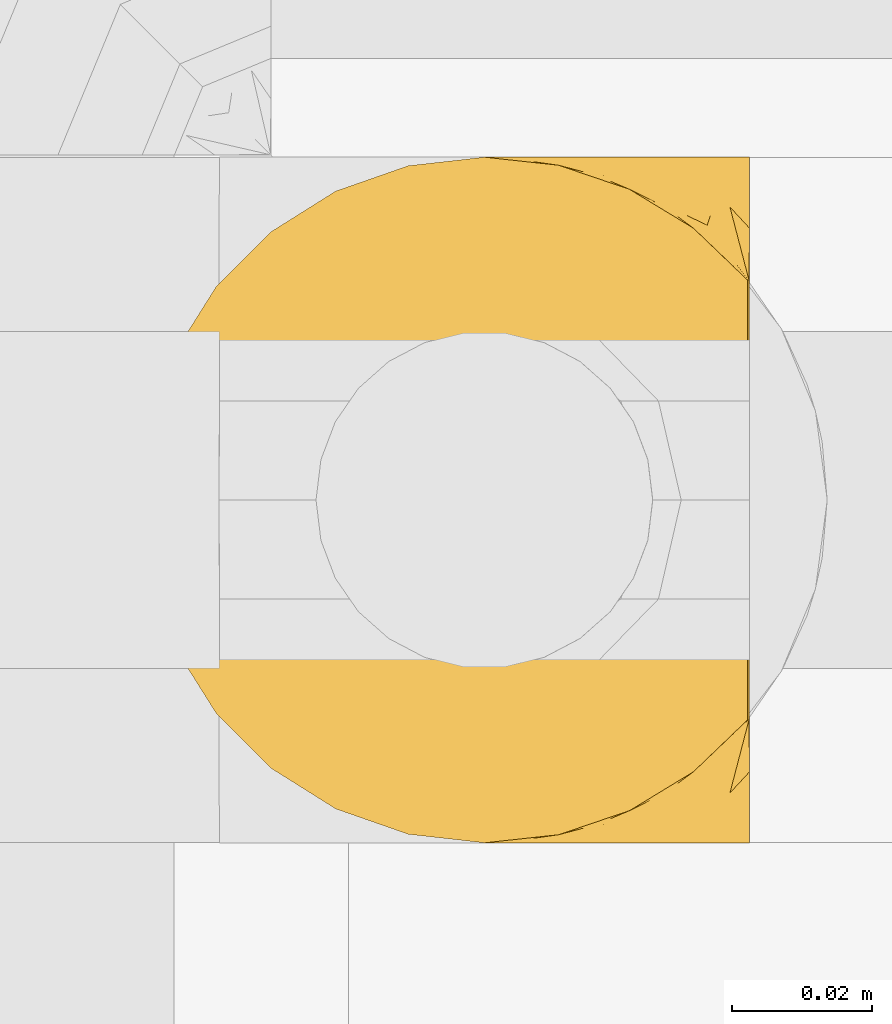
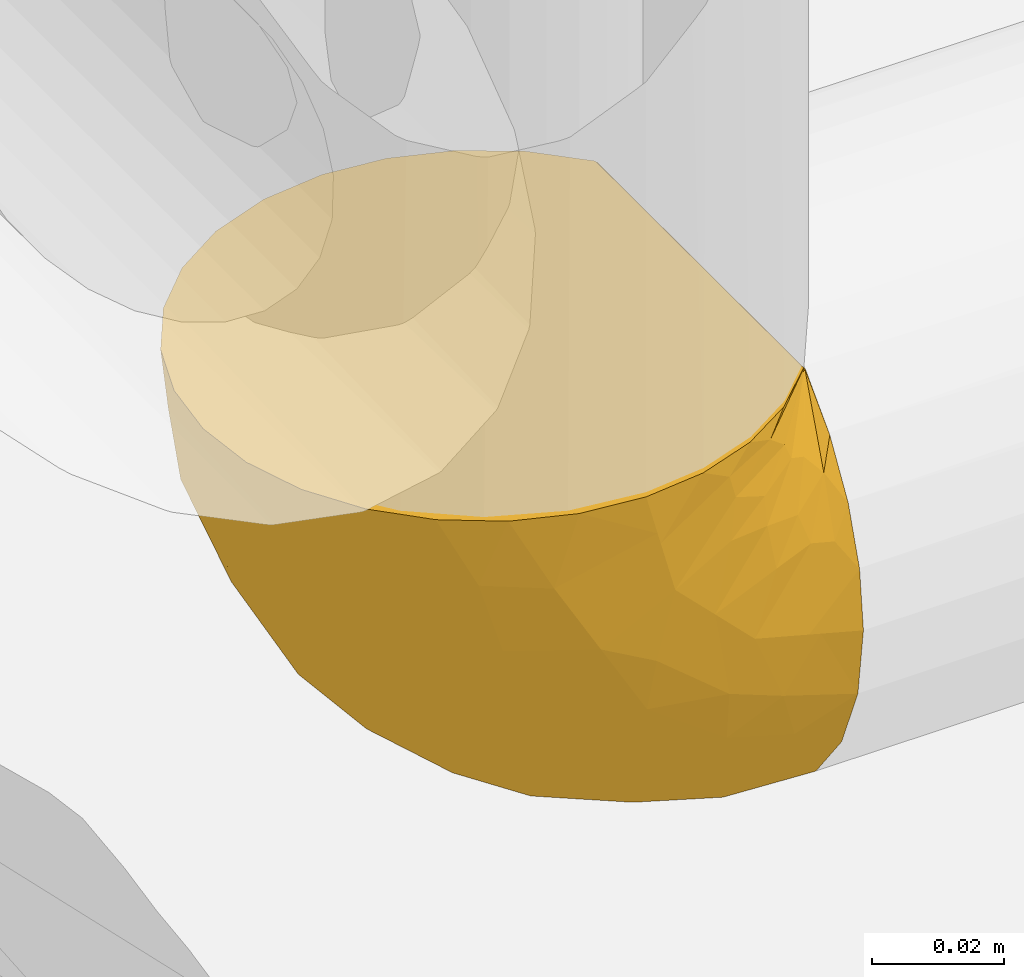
# One storey, part 30 of 94: 1 covering.
"""IFC2X3 building model written with IfcOpenShell, lengths in millimetres."""

from ifc_helpers import new_model, entity, si_unit, converted_unit, derived_unit, direction, frame, origin, place, context, subcontext, project, spatial, faceted_brep, material, element, save


model = new_model("IFC2X3")

# Units and contexts
model_context = context("Model", 3, precision=0.01, world=origin(), true_north=direction((6.123031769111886e-17, 1.0)))
body_context = subcontext(model_context, "Body", "Model", "MODEL_VIEW")
ifc_project = project(units=[si_unit("LENGTHUNIT", "METRE", prefix="MILLI"), si_unit("AREAUNIT", "SQUARE_METRE"), si_unit("VOLUMEUNIT", "CUBIC_METRE"), converted_unit("PLANEANGLEUNIT", "DEGREE", entity("IfcRatioMeasure", 0.017453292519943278), si_unit("PLANEANGLEUNIT", "RADIAN"), dimensions=[0, 0, 0, 0, 0, 0, 0]), si_unit("MASSUNIT", "GRAM", prefix="KILO"), derived_unit("MASSDENSITYUNIT", [(si_unit("MASSUNIT", "GRAM", prefix="KILO"), 1), (si_unit("LENGTHUNIT", "METRE"), -3)]), derived_unit("IONCONCENTRATIONUNIT", [(si_unit("MASSUNIT", "GRAM", prefix="KILO"), 1), (si_unit("LENGTHUNIT", "METRE"), -3)]), derived_unit("MOMENTOFINERTIAUNIT", [(si_unit("LENGTHUNIT", "METRE"), 4)]), si_unit("TIMEUNIT", "SECOND"), si_unit("FREQUENCYUNIT", "HERTZ"), si_unit("THERMODYNAMICTEMPERATUREUNIT", "DEGREE_CELSIUS"), derived_unit("THERMALTRANSMITTANCEUNIT", [(si_unit("MASSUNIT", "GRAM", prefix="KILO"), 1), (si_unit("THERMODYNAMICTEMPERATUREUNIT", "KELVIN"), -1), (si_unit("TIMEUNIT", "SECOND"), -3)]), derived_unit("THERMALCONDUCTANCEUNIT", [(si_unit("MASSUNIT", "GRAM", prefix="KILO"), 1), (si_unit("THERMODYNAMICTEMPERATUREUNIT", "KELVIN"), -1), (si_unit("TIMEUNIT", "SECOND"), -3), (si_unit("LENGTHUNIT", "METRE"), 1)]), derived_unit("VOLUMETRICFLOWRATEUNIT", [(si_unit("LENGTHUNIT", "METRE"), 3), (si_unit("TIMEUNIT", "SECOND"), -1)]), derived_unit("MASSFLOWRATEUNIT", [(si_unit("MASSUNIT", "GRAM", prefix="KILO"), 1), (si_unit("TIMEUNIT", "SECOND"), -1)]), derived_unit("ROTATIONALFREQUENCYUNIT", [(si_unit("TIMEUNIT", "SECOND"), -1)]), si_unit("ELECTRICCURRENTUNIT", "AMPERE"), si_unit("ELECTRICVOLTAGEUNIT", "VOLT"), si_unit("POWERUNIT", "WATT"), si_unit("FORCEUNIT", "NEWTON", prefix="KILO"), si_unit("ILLUMINANCEUNIT", "LUX"), si_unit("LUMINOUSFLUXUNIT", "LUMEN"), si_unit("LUMINOUSINTENSITYUNIT", "CANDELA"), derived_unit("USERDEFINED", [(si_unit("MASSUNIT", "GRAM", prefix="KILO"), -1), (si_unit("LENGTHUNIT", "METRE"), -2), (si_unit("TIMEUNIT", "SECOND"), 3), (si_unit("LUMINOUSFLUXUNIT", "LUMEN"), 1)]), derived_unit("USERDEFINED", [(si_unit("MASSUNIT", "GRAM", prefix="KILO"), 1), (si_unit("TIMEUNIT", "SECOND"), -3), (si_unit("LENGTHUNIT", "METRE"), 3), (si_unit("ELECTRICCURRENTUNIT", "AMPERE"), -2)]), derived_unit("SOUNDPOWERUNIT", [(si_unit("MASSUNIT", "GRAM", prefix="KILO"), 1), (si_unit("TIMEUNIT", "SECOND"), -3), (si_unit("LENGTHUNIT", "METRE"), 2)]), derived_unit("SOUNDPRESSUREUNIT", [(si_unit("MASSUNIT", "GRAM", prefix="KILO"), 1), (si_unit("LENGTHUNIT", "METRE"), -1), (si_unit("TIMEUNIT", "SECOND"), -2)]), derived_unit("LINEARVELOCITYUNIT", [(si_unit("LENGTHUNIT", "METRE"), 1), (si_unit("TIMEUNIT", "SECOND"), -1)]), si_unit("PRESSUREUNIT", "PASCAL"), derived_unit("USERDEFINED", [(si_unit("MASSUNIT", "GRAM", prefix="KILO"), 1), (si_unit("LENGTHUNIT", "METRE"), -2), (si_unit("TIMEUNIT", "SECOND"), -2)]), derived_unit("LINEARFORCEUNIT", [(si_unit("MASSUNIT", "GRAM", prefix="KILO"), 1), (si_unit("TIMEUNIT", "SECOND"), -2)]), derived_unit("PLANARFORCEUNIT", [(si_unit("MASSUNIT", "GRAM", prefix="KILO"), 1), (si_unit("LENGTHUNIT", "METRE"), -1), (si_unit("TIMEUNIT", "SECOND"), -2)]), derived_unit("SPECIFICHEATCAPACITYUNIT", [(si_unit("THERMODYNAMICTEMPERATUREUNIT", "KELVIN"), -1), (si_unit("LENGTHUNIT", "METRE"), 2), (si_unit("TIMEUNIT", "SECOND"), -2)]), derived_unit("HEATINGVALUEUNIT", [(si_unit("LENGTHUNIT", "METRE"), 2), (si_unit("TIMEUNIT", "SECOND"), -2)]), derived_unit("VAPORPERMEABILITYUNIT", [(si_unit("LENGTHUNIT", "METRE"), -1), (si_unit("TIMEUNIT", "SECOND"), 1)]), derived_unit("DYNAMICVISCOSITYUNIT", [(si_unit("MASSUNIT", "GRAM", prefix="KILO"), 1), (si_unit("TIMEUNIT", "SECOND"), -1), (si_unit("LENGTHUNIT", "METRE"), -1)]), derived_unit("THERMALEXPANSIONCOEFFICIENTUNIT", [(si_unit("THERMODYNAMICTEMPERATUREUNIT", "KELVIN"), -1)]), derived_unit("MODULUSOFELASTICITYUNIT", [(si_unit("MASSUNIT", "GRAM", prefix="KILO"), 1), (si_unit("LENGTHUNIT", "METRE"), -1), (si_unit("TIMEUNIT", "SECOND"), -2)]), derived_unit("ISOTHERMALMOISTURECAPACITYUNIT", [(si_unit("LENGTHUNIT", "METRE"), 3), (si_unit("MASSUNIT", "GRAM", prefix="KILO"), -1)]), derived_unit("MOISTUREDIFFUSIVITYUNIT", [(si_unit("TIMEUNIT", "SECOND"), -1), (si_unit("LENGTHUNIT", "METRE"), 2)])], contexts=[model_context])

# Site, building, storey
site_placement = place(None, origin())
site = spatial("IfcSite", under=ifc_project, at=site_placement, Name="Default", CompositionType="ELEMENT")
building_placement = place(site_placement, origin())
building = spatial("IfcBuilding", under=site, at=building_placement, CompositionType="ELEMENT")
storey_placement = place(building_placement, origin())
storey = spatial("IfcBuildingStorey", under=building, at=storey_placement, Name="Niveau 0", CompositionType="ELEMENT", Elevation=0.0)

# Covering
ifc_material = material(Name="Isolation - Laine minérale")
covering_placement = place(storey_placement, frame((-6908.882524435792, 9224.73240677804, 538.5952722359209)))
element("IfcCovering", 1, at=covering_placement, inside=storey, material=ifc_material, Name="Isolation des canalisations:Laine minérale", ObjectType="Isolation des canalisations:Laine minérale", PredefinedType="INSULATION", context=body_context, shape_type="Brep", body=[
    faceted_brep([(88.43165280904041, 19.19437336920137, -1.5952722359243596), (88.43165280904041, 21.63864226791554, -1.5952722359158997), (88.43165280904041, 23.415694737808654, -1.5952722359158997), (88.43165280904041, 25.192747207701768, -1.5952722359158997), (88.43165280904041, 26.692340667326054, -1.5952722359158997), (88.43165280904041, 28.191934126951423, -1.5952722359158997), (88.43165280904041, 31.191121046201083, -1.5952722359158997), (88.43165280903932, 34.19030796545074, -1.5952722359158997), (88.43165280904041, 37.18949488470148, -1.5952722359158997), (88.43165280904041, 40.18868180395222, -1.5952722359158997), (88.43165280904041, 41.688275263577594, -1.5952722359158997), (88.43165280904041, 43.18786872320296, -1.5952722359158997), (88.43165280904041, 45.63213762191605, -1.5952722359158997), (88.43165280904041, 48.07640652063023, -1.5952722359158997), (88.43165280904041, 50.5206754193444, -1.5952722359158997), (88.43165280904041, 52.96494431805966, -1.5952722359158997), (88.43165280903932, 55.40921321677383, -1.5952722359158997), (88.43165280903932, 57.853482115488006, -1.5952722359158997), (88.43165280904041, 60.29775101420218, -1.595272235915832), (88.43165280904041, 62.742019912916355, -1.5952722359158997), (88.43165280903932, 65.18628881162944, -1.5952722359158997), (88.43165280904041, 67.6305577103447, -1.5952722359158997), (88.43165280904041, 70.07482660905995, -1.5952722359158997), (88.43165280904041, 72.51909550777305, -1.5952722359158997), (88.43165280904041, 74.96336440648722, -1.5952722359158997), (88.43165280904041, 77.4076333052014, -1.5952722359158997), (88.43165280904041, 79.85190220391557, -1.5952722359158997), (88.43165280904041, 82.29617110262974, -1.5952722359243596), (80.69235262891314, 89.71827412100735, -1.5952722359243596), (71.53113811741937, 95.28368576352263, -1.5952722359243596), (61.38390047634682, 98.73008326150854, -1.5952722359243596), (50.74527223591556, 99.89527223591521, -1.5952722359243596), (39.80290363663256, 98.66173151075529, -1.5952722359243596), (29.41213456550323, 95.02415814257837, -1.5952722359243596), (20.093252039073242, 89.16631019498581, -1.5952722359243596), (12.31254833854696, 81.38263886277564, -1.5952722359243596), (6.459227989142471, 72.06354573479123, -1.5952722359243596), (2.826140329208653, 61.67593083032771, -1.5952722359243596), (1.5952722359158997, 50.74527223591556, -1.5952722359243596), (2.828812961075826, 39.80290363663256, -1.5952722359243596), (6.466386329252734, 29.41213456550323, -1.5952722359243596), (12.324234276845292, 20.093252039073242, -1.5952722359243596), (20.107905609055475, 12.31254833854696, -1.5952722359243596), (29.426998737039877, 6.459227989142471, -1.5952722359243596), (39.814613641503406, 2.826140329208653, -1.5952722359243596), (50.74527223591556, 1.5952722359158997, -1.5952722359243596), (61.40435822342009, 2.765001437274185, -1.5952722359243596), (71.55257335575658, 6.216868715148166, -1.5952722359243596), (80.70896636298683, 11.785042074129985, -1.5952722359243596), (88.74527223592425, 19.19437336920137, -1.9088916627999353), (88.74527223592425, 11.777056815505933, -9.641963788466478), (88.74527223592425, 6.211862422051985, -18.798688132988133), (88.74527223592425, 2.7632985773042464, -28.943854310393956), (88.74527223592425, 1.5952722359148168, -39.59527223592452), (88.74527223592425, 3.270017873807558, -52.31622830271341), (88.74527223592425, 8.18012363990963, -64.17027223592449), (88.74527223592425, 15.990973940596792, -74.34957053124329), (88.74527223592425, 26.17027223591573, -82.16042083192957), (88.74527223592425, 38.02431616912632, -87.07052659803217), (88.74527223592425, 50.74527223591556, -88.74527223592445), (88.74527223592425, 63.466228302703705, -87.07052659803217), (88.74527223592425, 75.32027223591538, -82.16042083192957), (88.74527223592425, 85.49957053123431, -74.34957053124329), (88.74527223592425, 93.3104208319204, -64.17027223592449), (88.74527223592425, 98.22052659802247, -52.31622830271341), (88.74527223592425, 99.89527223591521, -39.59527223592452), (88.74527223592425, 98.72724589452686, -28.943854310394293), (88.74527223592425, 95.27868204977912, -18.798688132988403), (88.74527223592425, 89.71348765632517, -9.64196378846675), (88.74527223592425, 82.29617110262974, -1.9088916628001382), (88.74527223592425, 79.85190220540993, -1.908891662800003), (88.74527223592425, 78.3523087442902, -1.908891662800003), (88.74527223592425, 76.3803775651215, -1.908891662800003), (88.74527223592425, 74.40844638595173, -1.908891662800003), (88.74527223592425, 72.43651520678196, -1.908891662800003), (88.74527223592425, 70.46458402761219, -1.908891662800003), (88.74527223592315, 68.49265284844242, -1.908891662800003), (88.74527223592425, 66.52072166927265, -1.908891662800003), (88.74527223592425, 64.54879049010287, -1.908891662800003), (88.74527223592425, 62.5768593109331, -1.908891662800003), (88.74527223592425, 60.60492813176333, -1.908891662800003), (88.74527223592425, 58.632996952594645, -1.908891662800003), (88.74527223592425, 56.661065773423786, -1.908891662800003), (88.74527223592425, 54.6891345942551, -1.908891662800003), (88.74527223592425, 52.71720341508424, -1.908891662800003), (88.74527223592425, 50.74527223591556, -1.908891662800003), (88.74527223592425, 48.773341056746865, -1.908891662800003), (88.74527223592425, 46.80140987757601, -1.908891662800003), (88.74527223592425, 44.82947869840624, -1.908891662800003), (88.74527223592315, 42.85754751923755, -1.908891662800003), (88.74527223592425, 40.88561634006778, -1.908891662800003), (88.74527223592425, 38.913685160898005, -1.908891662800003), (88.74527223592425, 36.94175398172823, -1.908891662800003), (88.74527223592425, 34.96982280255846, -1.908891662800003), (88.74527223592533, 31.97063588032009, -1.908891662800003), (88.74527223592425, 28.97144895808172, -1.908891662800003), (88.74527223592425, 26.5271800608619, -1.908891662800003), (88.74527223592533, 24.082911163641, -1.9088916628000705), (88.74527223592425, 21.638642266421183, -1.908891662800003), (88.53090125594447, 53.75333970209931, -1.82418756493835), (88.52210831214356, 51.832765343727, -1.8156242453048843), (88.521221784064, 61.47290163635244, -1.8147227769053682), (88.5277799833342, 63.56282540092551, -1.821224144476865), (88.54092532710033, 48.00102702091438, -1.8331787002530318), (88.53506454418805, 77.24999397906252, -1.8280164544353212), (88.49130573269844, 80.69913834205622, -1.7792781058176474), (88.51810292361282, 42.43807145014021, -1.811492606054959), (88.52350981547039, 22.860776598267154, -1.8170346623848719), (88.52548149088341, 24.70021643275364, -1.8189889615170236), (88.51653277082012, 71.3700895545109, -1.8098308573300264), (88.52674320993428, 73.40383885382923, -1.8202215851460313), (88.5046900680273, 44.410002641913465, -1.7964621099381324), (88.52964682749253, 37.92771907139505, -1.8230063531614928), (88.53317608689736, 39.81308540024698, -1.8262968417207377), (88.51585328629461, 35.95578792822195, -1.8091041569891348), (88.52914218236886, 49.75930651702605, -1.8225274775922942), (88.52591800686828, 21.02757498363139, -1.8194169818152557), (88.5366490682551, 55.67510065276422, -1.8294378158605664), (88.5374788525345, 67.50668767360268, -1.8301744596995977), (88.53273195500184, 65.61454699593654, -1.8258883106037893), (88.53426299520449, 34.10458092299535, -1.827290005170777), (88.53370000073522, 57.55217518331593, -1.8267767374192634), (88.52350981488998, 79.10210557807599, -1.8170346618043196), (88.53493173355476, 75.39441218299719, -1.8278964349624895), (88.5235098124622, 82.29617110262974, -1.817034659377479), (88.49487979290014, 82.29617110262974, -1.7479156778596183), (88.46624977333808, 82.29617110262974, -1.6787966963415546), (88.5235098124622, 19.19437336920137, -1.817034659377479), (88.59262879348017, 19.19437336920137, -1.8456646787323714), (88.66174777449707, 19.19437336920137, -1.874294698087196), (88.51000647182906, 32.212157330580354, -1.8026539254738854), (88.5304248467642, 69.43559223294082, -1.8237404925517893), (88.52246762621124, 46.24828797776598, -1.815987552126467), (88.52470424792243, 59.49061335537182, -1.818222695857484), (88.50579329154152, 29.41925201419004, -1.797774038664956), (88.52744143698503, 27.44213716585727, -1.820897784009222), (88.66174777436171, 82.29617110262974, -1.87429469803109), (88.59262879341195, 82.29617110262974, -1.8456646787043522), (88.46624977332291, 19.19437336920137, -1.6787966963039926), (88.49487979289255, 19.19437336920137, -1.7479156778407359), (85.22080157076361, 4.210283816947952, -23.495219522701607), (85.93611072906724, 8.744179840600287, -13.747756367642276), (81.07807843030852, 4.210283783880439, -22.409779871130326), (83.13289242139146, 9.955583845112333, -10.562522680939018), (79.24527223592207, 1.5952722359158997, -37.049754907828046), (81.28890223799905, 1.5952722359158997, -37.59734391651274), (55.83630689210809, 1.5952722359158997, -20.59527223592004), (66.39553001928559, 2.93549782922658, -16.020149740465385), (67.94040403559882, 4.213452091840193, -9.261677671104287), (69.7452722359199, 1.5952722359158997, -34.50423757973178), (80.67378389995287, 9.405305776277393, -9.667897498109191), (79.7889209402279, 9.963487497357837, -7.202912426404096), (74.32109358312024, 2.9356418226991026, -23.9447467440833), (66.85470593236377, 4.213452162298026, -5.119390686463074), (76.60336361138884, 8.750654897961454, -4.402893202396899), (79.6491193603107, 5.690627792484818, -17.54150634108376), (52.74320051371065, 1.5952722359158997, -9.051642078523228), (53.290789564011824, 1.5952722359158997, -11.095272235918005), (73.61168493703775, 4.482619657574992, -16.728859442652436), (62.790789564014, 1.5952722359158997, -27.549754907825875), (73.87988529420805, 5.766057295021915, -12.071559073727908), (75.32913676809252, 2.6117250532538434, -47.62395095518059), (65.91074185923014, 2.657531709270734, -44.001441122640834), (53.84761415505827, 11.131578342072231, -58.899698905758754), (59.13651173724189, 20.82464790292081, -72.66771487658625), (71.16612245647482, 11.7519547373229, -67.20155656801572), (67.00545271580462, 5.336592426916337, -54.0798422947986), (78.88051287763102, 5.336592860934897, -57.54110754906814), (37.51978749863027, 50.74527223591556, -72.10110329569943), (61.81444117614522, 50.74527223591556, -84.4798476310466), (53.87520138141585, 40.339739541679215, -80.2480135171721), (25.78494399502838, 9.124243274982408, -13.851436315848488), (36.244182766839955, 4.351045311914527, -15.165285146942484), (29.562882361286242, 32.64695426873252, -60.77765845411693), (30.770681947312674, 23.768909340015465, -55.385836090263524), (15.292222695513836, 35.61531809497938, -43.89737524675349), (71.31385843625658, 41.696133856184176, -86.12648113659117), (47.24102741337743, 30.50981773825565, -73.23168363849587), (43.50389303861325, 21.748430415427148, -64.74738573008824), (75.28985257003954, 20.824647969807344, -77.40373146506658), (67.10273039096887, 31.93638275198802, -82.14716981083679), (37.099200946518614, 15.984346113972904, -52.82911549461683), (44.515176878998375, 9.509703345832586, -48.87896541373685), (33.70477633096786, 11.405769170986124, -40.60722086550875), (44.051694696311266, 3.7235321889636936, -28.769953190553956), (30.044081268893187, 9.124242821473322, -27.44844566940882), (18.312338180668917, 15.984347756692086, -19.800365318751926), (5.860696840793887, 50.74527223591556, -28.52610329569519), (7.041406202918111, 34.50535109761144, -22.71562192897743), (25.61446965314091, 18.535934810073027, -42.317485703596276), (15.886915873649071, 24.588194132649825, -33.683827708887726), (10.600409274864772, 24.588193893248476, -16.8069734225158), (38.50378416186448, 39.07585882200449, -71.0785805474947), (25.345180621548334, 42.346184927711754, -60.332491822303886), (53.16350413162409, 2.5632520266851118, -33.373321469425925), (18.239441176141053, 50.74527223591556, -52.82075697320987), (52.69469876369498, 4.722449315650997, -43.465429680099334), (58.175892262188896, 69.5541610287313, -79.20017463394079), (71.70091272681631, 59.5851078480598, -86.24488809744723), (54.574333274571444, 59.865425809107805, -80.8380701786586), (42.49805076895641, 66.13789702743, -72.52816019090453), (75.0623548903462, 69.55416221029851, -83.87397883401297), (24.525141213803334, 85.49332197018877, -35.79866076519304), (25.786342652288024, 78.98858976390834, -48.02046276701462), (15.878231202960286, 76.88743080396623, -33.68736739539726), (37.089792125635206, 85.49294527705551, -52.838449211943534), (35.71336208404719, 78.28666517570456, -59.75598123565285), (36.23150879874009, 97.13479117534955, -15.170016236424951), (70.53804152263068, 98.95303587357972, -45.55141709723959), (69.7452722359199, 99.89527223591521, -34.50423757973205), (79.24527223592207, 99.89527223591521, -37.049754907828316), (7.036299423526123, 66.97173870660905, -22.714677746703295), (69.24086116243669, 80.66589652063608, -76.07714087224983), (30.030512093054, 92.35692696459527, -27.454651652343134), (25.770245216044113, 92.35692651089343, -13.854008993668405), (76.87540408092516, 89.73858944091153, -68.47065883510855), (74.00473445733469, 96.15395178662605, -56.45843349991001), (48.41047025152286, 79.62483877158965, -68.08854506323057), (62.62553049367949, 89.7385902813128, -64.2927207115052), (31.220776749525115, 59.508159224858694, -66.01125638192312), (29.56034539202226, 68.8345286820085, -60.7801954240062), (79.82666983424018, 99.01263503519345, -48.01911236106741), (10.591274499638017, 76.887431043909, -16.809109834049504), (15.287247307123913, 65.85652255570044, -43.900853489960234), (18.299506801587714, 85.49294363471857, -19.803681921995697), (44.049870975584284, 97.76388503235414, -28.786726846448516), (55.83630689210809, 99.89527223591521, -20.595272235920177), (54.23536248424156, 98.78930951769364, -35.48506655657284), (62.790789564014, 99.89527223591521, -27.549754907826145), (52.74320051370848, 99.89527223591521, -9.0516420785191), (53.290789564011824, 99.89527223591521, -11.095272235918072), (48.41211537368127, 91.50386042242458, -53.162912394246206), (64.14304703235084, 96.42683125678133, -52.053084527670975), (40.10640265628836, 93.1499194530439, -41.40103739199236), (62.890734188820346, 99.08337182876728, -40.721221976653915), (47.67277833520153, 86.09107557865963, -60.91677547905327), (55.38955823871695, 96.67816905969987, -45.94061161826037), (81.0780784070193, 97.28026029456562, -22.40977862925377), (78.26566497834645, 95.72662397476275, -16.46425424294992), (74.32072912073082, 98.5546584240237, -23.94329253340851), (85.22080145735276, 97.28026045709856, -23.495218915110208), (85.93611080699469, 92.74636428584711, -13.747755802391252), (83.13257230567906, 91.53641117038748, -10.564867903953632), (82.68198005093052, 90.1127562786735, -7.656624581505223), (73.61706381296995, 97.0051951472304, -16.723481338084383), (79.75777141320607, 91.54965419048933, -7.216517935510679), (67.91845358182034, 97.2842704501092, -9.263185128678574), (66.83334757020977, 97.28427059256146, -5.119593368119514), (76.58449008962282, 92.7514749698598, -4.405878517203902), (66.3977076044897, 98.55441347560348, -16.01862728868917), (72.78382599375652, 95.80583125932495, -10.692146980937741)], [[[0, 1, 2, 3, 4, 5, 6, 7, 8, 9, 10, 11, 12, 13, 14, 15, 16, 17, 18, 19, 20, 21, 22, 23, 24, 25, 26, 27, 28, 29, 30, 31, 32, 33, 34, 35, 36, 37, 38, 39, 40, 41, 42, 43, 44, 45, 46, 47, 48]], [[49, 50, 51, 52, 53, 54, 55, 56, 57, 58, 59, 60, 61, 62, 63, 64, 65, 66, 67, 68, 69, 70, 71, 72, 73, 74, 75, 76, 77, 78, 79, 80, 81, 82, 83, 84, 85, 86, 87, 88, 89, 90, 91, 92, 93, 94, 95, 96, 97, 98]], [[99, 100, 84]], [[101, 102, 19]], [[86, 103, 87]], [[72, 71, 104]], [[105, 70, 69]], [[11, 10, 106]], [[2, 107, 108]], [[109, 74, 110]], [[12, 11, 111]], [[9, 112, 113]], [[108, 97, 96]], [[114, 93, 92]], [[103, 86, 115]], [[97, 107, 98]], [[107, 1, 116]], [[79, 102, 101]], [[99, 117, 16]], [[77, 118, 119]], [[120, 93, 114]], [[112, 91, 113]], [[89, 111, 106]], [[24, 23, 110]], [[107, 97, 108]], [[16, 117, 121]], [[92, 91, 112]], [[21, 119, 118]], [[85, 115, 86]], [[70, 105, 122]], [[72, 123, 73]], [[105, 124, 125, 126, 27]], [[116, 1, 0]], [[122, 71, 70]], [[25, 122, 26]], [[116, 127, 128, 129, 49]], [[110, 123, 24]], [[26, 122, 105]], [[120, 7, 130]], [[8, 114, 112]], [[114, 8, 7]], [[104, 123, 72]], [[92, 112, 114]], [[104, 122, 25]], [[8, 112, 9]], [[110, 73, 123]], [[20, 119, 21]], [[24, 123, 25]], [[75, 74, 109]], [[131, 76, 75]], [[118, 131, 21]], [[109, 110, 23]], [[109, 23, 22]], [[74, 73, 110]], [[123, 104, 25]], [[122, 104, 71]], [[10, 9, 113]], [[113, 90, 106]], [[88, 87, 132]], [[113, 106, 10]], [[77, 76, 118]], [[132, 111, 88]], [[106, 111, 11]], [[132, 12, 111]], [[88, 111, 89]], [[89, 106, 90]], [[113, 91, 90]], [[131, 118, 76]], [[22, 21, 131]], [[119, 20, 102]], [[131, 109, 22]], [[109, 131, 75]], [[79, 78, 102]], [[78, 119, 102]], [[78, 77, 119]], [[121, 81, 133]], [[20, 19, 102]], [[17, 121, 133]], [[80, 79, 101]], [[18, 101, 19]], [[132, 13, 12]], [[81, 80, 133]], [[13, 103, 115]], [[14, 13, 115]], [[87, 103, 132]], [[100, 115, 85]], [[15, 14, 100]], [[115, 100, 14]], [[16, 15, 99]], [[117, 82, 121]], [[100, 85, 84]], [[99, 83, 117]], [[82, 117, 83]], [[17, 16, 121]], [[83, 99, 84]], [[100, 99, 15]], [[18, 17, 133]], [[121, 82, 81]], [[133, 101, 18]], [[101, 133, 80]], [[134, 95, 94]], [[7, 120, 114]], [[132, 103, 13]], [[120, 94, 93]], [[94, 120, 130]], [[98, 107, 116]], [[108, 4, 3, 2]], [[5, 135, 134]], [[4, 135, 5]], [[134, 135, 95]], [[108, 96, 135]], [[108, 135, 4]], [[135, 96, 95]], [[134, 6, 5]], [[130, 6, 134]], [[26, 105, 27]], [[105, 69, 136, 137, 124]], [[98, 116, 49]], [[116, 0, 138, 139, 127]], [[2, 1, 107]], [[94, 130, 134]], [[6, 130, 7]], [[140, 141, 142]], [[143, 129, 128, 127]], [[52, 144, 145, 53]], [[146, 147, 148]], [[142, 149, 144]], [[150, 127, 151]], [[51, 140, 52]], [[142, 152, 149]], [[52, 140, 144]], [[129, 143, 141]], [[47, 46, 153]], [[148, 151, 154]], [[155, 141, 143]], [[151, 138, 154]], [[47, 153, 154]], [[0, 48, 138]], [[46, 45, 156, 157]], [[152, 155, 158]], [[159, 158, 147]], [[157, 148, 153]], [[47, 154, 48]], [[50, 49, 129]], [[50, 129, 141]], [[141, 51, 50]], [[160, 148, 147]], [[146, 148, 157]], [[138, 48, 154]], [[150, 158, 155]], [[151, 127, 139, 138]], [[141, 140, 51]], [[144, 140, 142]], [[157, 153, 46]], [[154, 153, 148]], [[149, 152, 159]], [[160, 147, 158]], [[147, 146, 159]], [[155, 152, 142]], [[159, 152, 158]], [[127, 150, 143]], [[160, 150, 151]], [[150, 160, 158]], [[148, 160, 151]], [[141, 155, 142]], [[155, 143, 150]], [[156, 45, 44]], [[161, 149, 162]], [[163, 164, 165]], [[166, 167, 161]], [[168, 169, 170]], [[55, 165, 56]], [[171, 172, 43]], [[173, 174, 175]], [[58, 176, 59]], [[173, 177, 178]], [[179, 57, 56]], [[55, 167, 165]], [[170, 180, 177]], [[57, 179, 180]], [[167, 55, 54]], [[181, 182, 183]], [[184, 146, 172]], [[172, 185, 184]], [[186, 185, 171]], [[186, 42, 41]], [[172, 146, 157, 156]], [[172, 44, 43]], [[173, 178, 174]], [[39, 187, 188]], [[189, 186, 190]], [[191, 186, 41]], [[175, 190, 188]], [[168, 192, 193]], [[189, 190, 174]], [[57, 180, 58]], [[41, 40, 191]], [[188, 40, 39]], [[39, 38, 187]], [[190, 191, 188]], [[159, 194, 162]], [[175, 187, 195]], [[177, 180, 164]], [[43, 42, 171]], [[176, 180, 170]], [[156, 44, 172]], [[163, 165, 166]], [[179, 165, 164]], [[54, 53, 145]], [[185, 189, 183]], [[184, 196, 194]], [[188, 191, 40]], [[186, 191, 190]], [[186, 171, 42]], [[172, 171, 185]], [[187, 175, 188]], [[193, 175, 195]], [[196, 163, 166]], [[163, 181, 178]], [[162, 166, 161]], [[184, 185, 183]], [[178, 177, 164]], [[177, 192, 170]], [[177, 173, 192]], [[176, 170, 169]], [[59, 176, 169]], [[58, 180, 176]], [[193, 192, 173]], [[168, 170, 192]], [[175, 193, 173]], [[168, 193, 195]], [[163, 178, 164]], [[184, 194, 146]], [[178, 181, 174]], [[189, 174, 181]], [[175, 174, 190]], [[183, 189, 181]], [[186, 189, 185]], [[182, 181, 163]], [[183, 182, 184]], [[163, 196, 182]], [[184, 182, 196]], [[165, 179, 56]], [[180, 179, 164]], [[161, 54, 145]], [[165, 167, 166]], [[54, 161, 167]], [[161, 145, 144, 149]], [[159, 162, 149]], [[196, 166, 162]], [[162, 194, 196]], [[146, 194, 159]], [[197, 198, 199]], [[59, 169, 198]], [[197, 199, 200]], [[198, 197, 201]], [[202, 203, 204]], [[61, 60, 201]], [[205, 206, 203]], [[33, 32, 207]], [[208, 209, 210]], [[187, 37, 211]], [[201, 212, 61]], [[213, 214, 207]], [[62, 215, 63]], [[63, 215, 216]], [[36, 211, 37]], [[217, 218, 212]], [[219, 220, 200]], [[216, 208, 221]], [[36, 35, 222]], [[63, 216, 64]], [[62, 61, 212]], [[211, 36, 222]], [[38, 37, 187]], [[217, 197, 200]], [[203, 223, 204]], [[35, 34, 224]], [[225, 213, 207]], [[204, 222, 224]], [[34, 33, 214]], [[204, 224, 202]], [[207, 226, 225]], [[227, 226, 228]], [[223, 211, 204]], [[214, 224, 34]], [[202, 224, 213]], [[32, 31, 229]], [[207, 229, 230, 226]], [[211, 223, 187]], [[218, 231, 232]], [[32, 229, 207]], [[205, 233, 231]], [[233, 213, 225]], [[217, 212, 197]], [[215, 212, 218]], [[228, 234, 227]], [[233, 205, 202]], [[208, 234, 209]], [[64, 221, 65]], [[235, 205, 231]], [[207, 214, 33]], [[224, 214, 213]], [[224, 222, 35]], [[211, 222, 204]], [[219, 223, 220]], [[187, 223, 195]], [[227, 233, 225]], [[234, 228, 209]], [[231, 233, 236]], [[221, 208, 210]], [[232, 208, 216]], [[65, 221, 210]], [[216, 221, 64]], [[233, 202, 213]], [[203, 202, 205]], [[205, 235, 206]], [[223, 203, 220]], [[200, 206, 217]], [[220, 203, 206]], [[232, 231, 236]], [[235, 218, 217]], [[212, 215, 62]], [[216, 215, 218]], [[218, 232, 216]], [[234, 232, 236]], [[232, 234, 208]], [[234, 236, 227]], [[233, 227, 236]], [[226, 227, 225]], [[198, 201, 60]], [[212, 201, 197]], [[59, 198, 60]], [[198, 169, 199]], [[169, 168, 199]], [[219, 200, 199]], [[219, 199, 168]], [[200, 220, 206]], [[168, 195, 219]], [[223, 219, 195]], [[218, 235, 231]], [[206, 235, 217]], [[66, 65, 210]], [[209, 237, 210]], [[238, 237, 239]], [[67, 240, 241]], [[242, 136, 241]], [[243, 137, 242]], [[243, 244, 245]], [[66, 240, 67]], [[136, 69, 68]], [[136, 68, 241]], [[246, 226, 230]], [[67, 241, 68]], [[210, 237, 240]], [[29, 247, 30]], [[209, 239, 237]], [[246, 247, 248]], [[30, 247, 230]], [[249, 250, 244]], [[239, 228, 244]], [[226, 246, 249]], [[250, 248, 245]], [[28, 27, 126]], [[237, 242, 241]], [[248, 29, 28]], [[28, 126, 248]], [[30, 230, 229, 31]], [[245, 126, 125]], [[126, 245, 248]], [[243, 124, 137]], [[210, 240, 66]], [[241, 240, 237]], [[248, 247, 29]], [[230, 247, 246]], [[226, 249, 228]], [[238, 239, 244]], [[239, 209, 228]], [[250, 249, 246]], [[228, 249, 244]], [[243, 242, 238]], [[136, 242, 137]], [[124, 243, 125]], [[125, 243, 245]], [[243, 238, 244]], [[237, 238, 242]], [[248, 250, 246]], [[244, 250, 245]]]),
])

save(model, "model.ifc")
